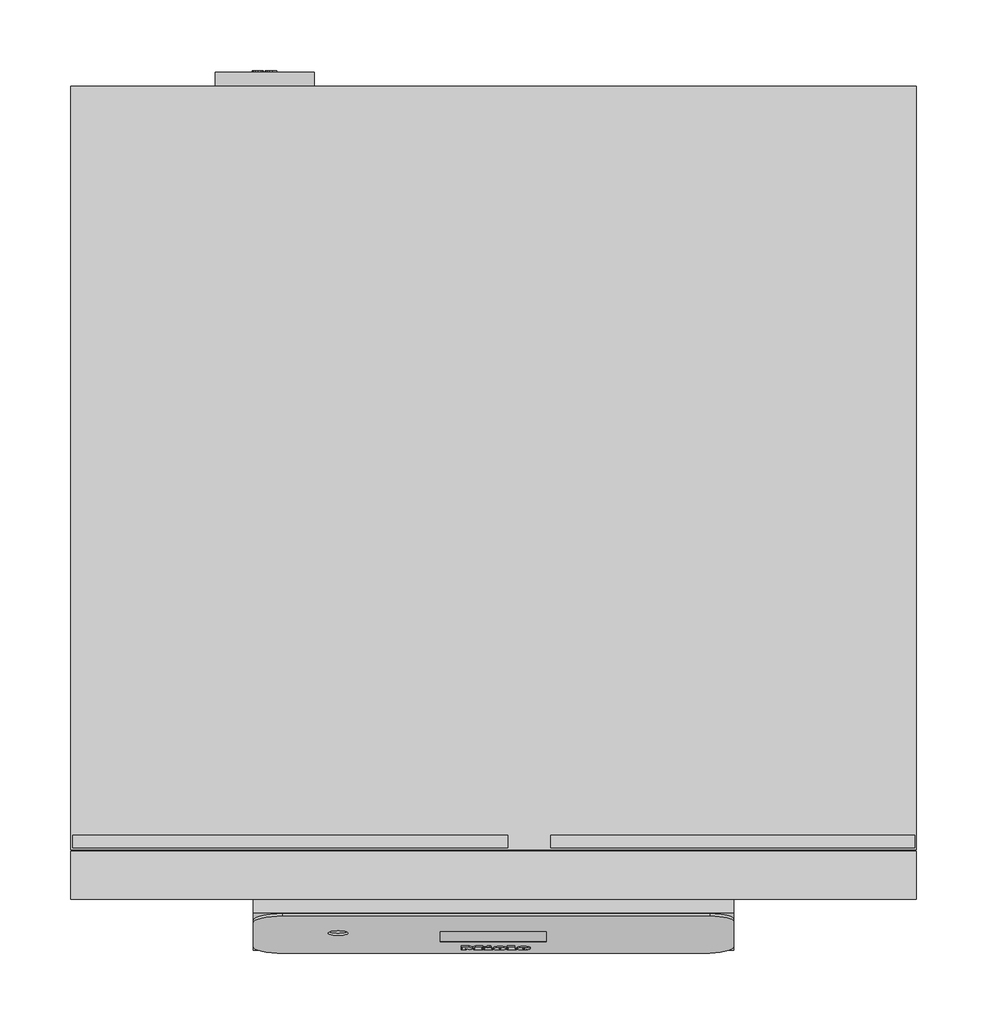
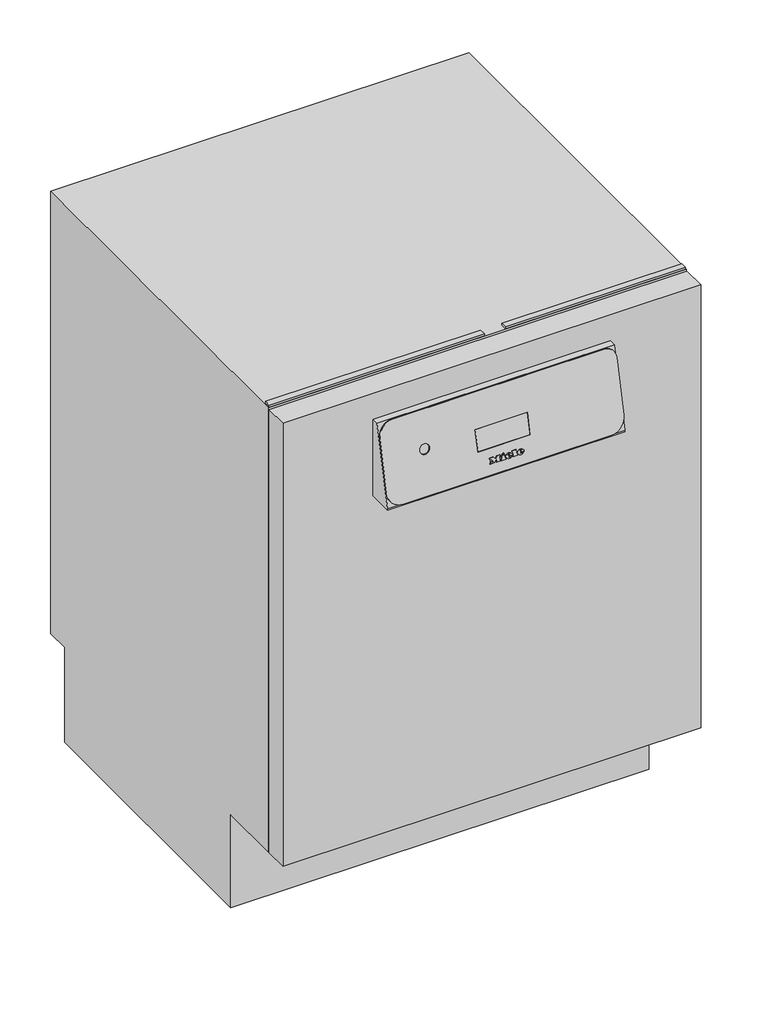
# Not in any storey: 1 proxy.
"""IFC4 building model written with IfcOpenShell, lengths in millimetres."""

from ifc_helpers import new_model, si_unit, origin, place, context, project, spatial, transform, mapped, element, save
from components import specialty_equipment_68a3030f

model = new_model("IFC4")

# Units and contexts
model_context = context("Model", 3, world=origin())
ifc_project = project(units=[si_unit("LENGTHUNIT", "METRE", prefix="MILLI")], contexts=[model_context])

# Site, building
site = spatial("IfcSite", under=ifc_project)
building = spatial("IfcBuilding", under=site)

# Proxy
placement = place(None, origin())
specialty_equipment_shape = specialty_equipment_68a3030f(model_context)
element("IfcBuildingElementProxy", 1, Name="12065660_NWE_PFD401U_LW : 61040120_NWE_12065660_PFD401U_LW", ObjectType="12065660_NWE_PFD401U_LW : 61040120_NWE_12065660_PFD401U_LW", at=placement, inside=building, context=model_context, shape_type="MappedRepresentation", body=[
    mapped(specialty_equipment_shape, transform((0.0, 0.0, 0.0), x_axis=(1.0, 0.0, 0.0), y_axis=(0.0, 1.0, 0.0), z_axis=(0.0, 0.0, 1.0))),
])

save(model, "model.ifc")
